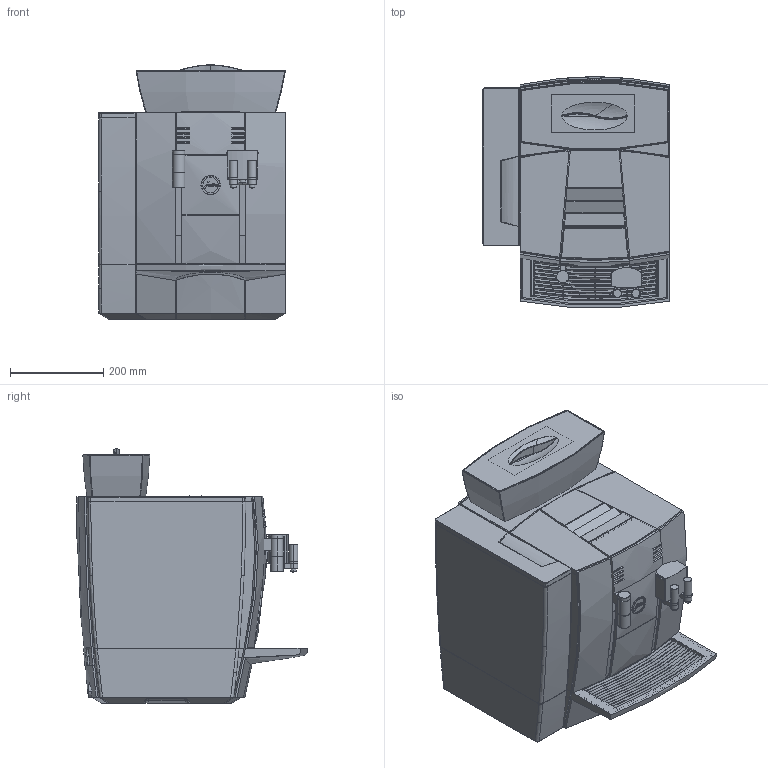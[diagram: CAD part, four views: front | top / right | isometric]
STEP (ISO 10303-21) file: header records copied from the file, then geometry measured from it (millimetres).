
FILE_DESCRIPTION (( 'STEP AP214' ), '1' );
FILE_NAME ('GIGA_X3_Professional_Design.STEP', '2013-12-12T14:04:19', ( '' ), ( '' ), 'SwSTEP 2.0', 'SolidWorks 2012', '' );
FILE_SCHEMA (( 'AUTOMOTIVE_DESIGN' ));
Length unit declared in the file: millimetre
Products named in the file (1): GIGA_X3_Professional_Design
Bounding box: 400.01 x 495.48 x 545.5 mm (x, y, z)
Surface area: 4043436.5 mm2 (no closed solid volume)
Topology: 0 solids, 90 shells, 1812 faces, 5065 edges, 3318 vertices
Faces by surface type: bspline 598, cylinder 524, plane 466, torus 140, sphere 61, cone 23
Entity records: 112710 total; most frequent: CARTESIAN_POINT 51728, ORIENTED_EDGE 9887, DIRECTION 6200, EDGE_CURVE 5010, VERTEX_POINT 3289, AXIS2_PLACEMENT_3D 2386, B_SPLINE_CURVE_WITH_KNOTS 2342, UNCERTAINTY_MEASURE_WITH_UNIT 1877
